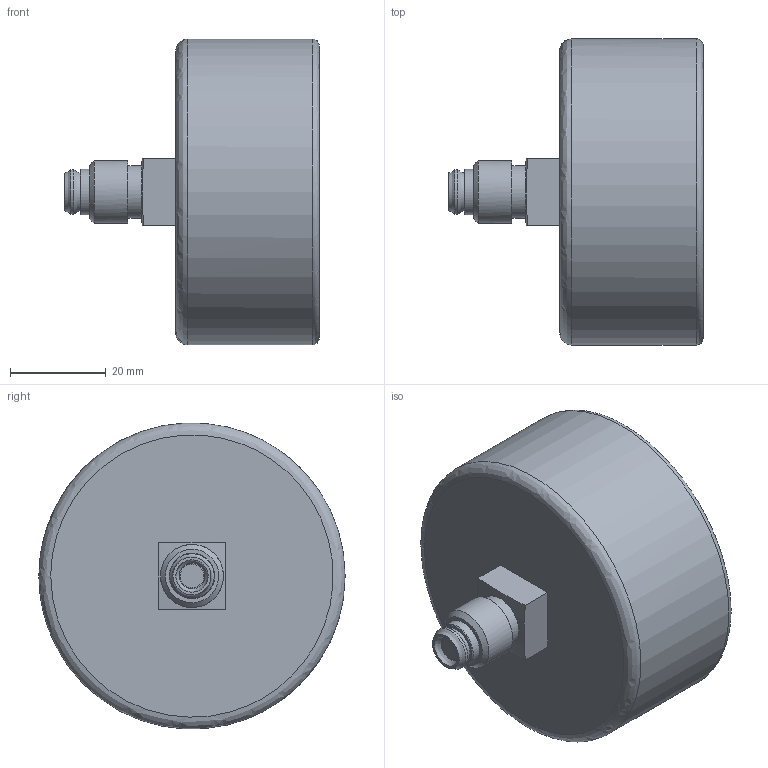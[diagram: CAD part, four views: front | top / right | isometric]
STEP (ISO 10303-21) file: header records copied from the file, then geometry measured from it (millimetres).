
FILE_DESCRIPTION((''),'2;1');
FILE_NAME('U:\Users\a.heinl\DG100.stp','2013-05-08T14:39:36',('User'), ('SDRC'),'I-DEAS Master Series 9','UNIX','Yes');
FILE_SCHEMA(('AUTOMOTIVE_DESIGN { 1 0 10303 214 1 1 1 1 }'));
Length unit declared in the file: millimetre
Products named in the file (1): export
Bounding box: 53.2 x 64 x 63.94 mm (x, y, z)
Volume: 99870.3 mm3; surface area: 13262.9 mm2
Topology: 1 solids, 1 shells, 28 faces, 51 edges, 31 vertices
Faces by surface type: bspline 28
Entity records: 966 total; most frequent: CARTESIAN_POINT 610, ORIENTED_EDGE 102, EDGE_CURVE 51, EDGE_LOOP 34, VERTEX_POINT 31, FACE_OUTER_BOUND 28, ADVANCED_FACE 28, B_SPLINE_CURVE_WITH_KNOTS 12
